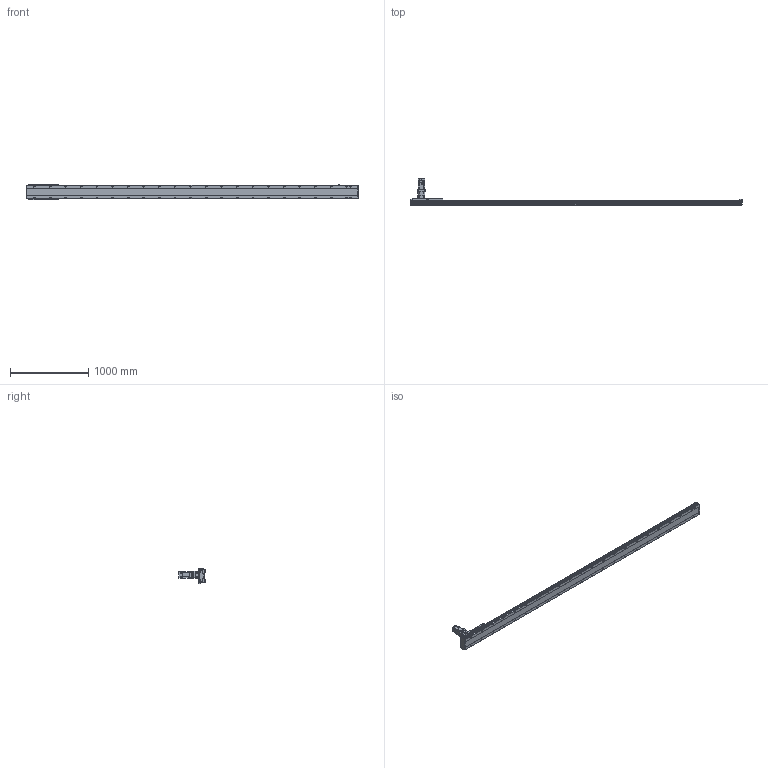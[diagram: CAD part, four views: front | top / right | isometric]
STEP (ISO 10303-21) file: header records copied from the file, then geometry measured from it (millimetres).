
FILE_DESCRIPTION(/* description */ ('STEP AP203'),/* implementation_level */ '2;1');
FILE_NAME(/* name */ 'SHS17A-L13-S3800-BC-T75-C1-N(0)',/* time_stamp */ '2023-03-27T08:59:13+02:00',/* author */ ('License CC BY-ND 4.0'),/* organization */ ('CADENAS'),/* preprocessor_version */ 'ST-DEVELOPER v19.3',/* originating_system */ 'PARTsolutions',/* authorisation */ ' ');
FILE_SCHEMA (('CONFIG_CONTROL_DESIGN'));
Length unit declared in the file: millimetre
Products named in the file (7): SHS17A-L13-S3800-BC-T75-C1-N(0); PSC140-sensor; SHS17A-S3800(0)_body2; T75-p1; SHS17A-S3800_body3; SHS17A-S3800-C1(0)_slider; SHS17A-S3800-C1(0)_body
Assembly tree (13 placements, depth 2):
  SHS17A-L13-S3800-BC-T75-C1-N(0)
    PSC140-sensor  x3
    SHS17A-S3800(0)_body2  x6
    T75-p1
    SHS17A-S3800_body3
    SHS17A-S3800-C1(0)_slider
    SHS17A-S3800-C1(0)_body
Bounding box: 4254 x 333.8 x 193.4 mm (x, y, z)
Volume: 29135441.3 mm3; surface area: 3344740.1 mm2
Topology: 13 solids, 13 shells, 2360 faces, 6021 edges, 3920 vertices
Faces by surface type: plane 1455, cylinder 804, cone 98, torus 3
Full cylindrical faces by diameter (mm): 2.8 x3, 4.134 x24, 4.5 x2, 4.6 x3, 4.917 x15, 5.5 x48, 6 x7, 6.5 x24, 6.647 x52, 6.8 x9, 8 x3, 8.5 x44, 10 x28, 11 x4, 14 x44, 22 x1, 24 x1, 24.2 x1, 28 x1, 28.2 x1, 28.8 x1, 29.8 x1, 48.542 x1, 68 x1, 70 x1, 78 x1, 80 x2
Entity records: 47696 total; most frequent: CARTESIAN_POINT 9548, DIRECTION 7723, ORIENTED_EDGE 7484, EDGE_CURVE 3742, AXIS2_PLACEMENT_3D 2758, VERTEX_POINT 2635, EDGE_LOOP 2239, FACE_BOUND 2239
